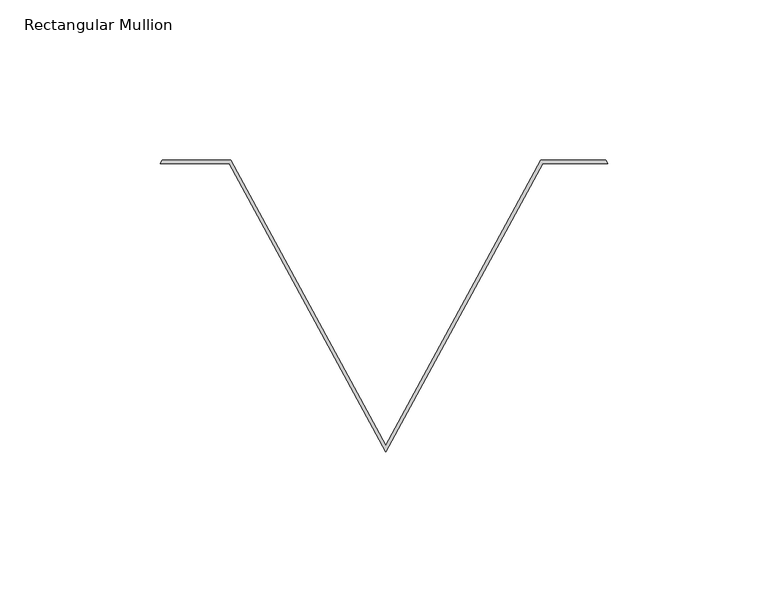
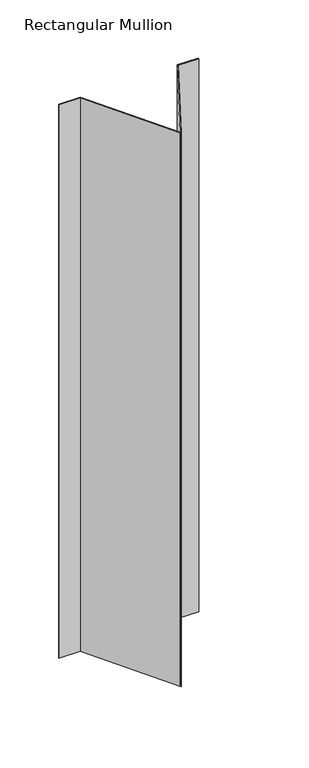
"""IFC4 building model written with IfcOpenShell, lengths in millimetres: member geometry, Rectangular Mullion : CD_NINELINE_Pleat End."""

import ifcopenshell
import ifcopenshell.guid

model = None  # the IFC model being written
_history = None  # IfcOwnerHistory: only IFC2X3 demands one
_inside = {}  # id of a spatial element -> (the spatial element, [elements in it])
_under = {}  # id of a project, library or spatial element -> (it, [spatial elements below it])
_declared = {}  # id of a project -> (the project, [libraries it declares])
_typed = {}  # id of a type object -> (the type object, [elements of that type])
_made_of = {}  # id of a material, layer set ... -> (it, [elements and type objects made of it])


def new_model(schema):
    """Start an empty IFC model of exactly this schema.

    Asked for "IFC4X3", IfcOpenShell would pick the latest addendum, in which some entities
    have other attributes; the version numbers below select the first issue.
    IFC2X3 requires an IfcOwnerHistory on every rooted entity: one is made here for all.
    """
    global model, _history
    if schema == "IFC4X3":
        model = ifcopenshell.file(schema_version=(4, 3, 0, 0))
    else:
        model = ifcopenshell.file(schema=schema)
    _inside.clear()
    _under.clear()
    _declared.clear()
    _typed.clear()
    _made_of.clear()
    _history = None
    if model.schema == "IFC2X3":
        org = make("IfcOrganization", Name="unknown")
        user = make(
            "IfcPersonAndOrganization",
            ThePerson=make("IfcPerson", FamilyName="unknown"),
            TheOrganization=org,
        )
        app = make(
            "IfcApplication",
            ApplicationDeveloper=org,
            Version="unknown",
            ApplicationFullName="unknown",
            ApplicationIdentifier="unknown",
        )
        _history = make(
            "IfcOwnerHistory",
            OwningUser=user,
            OwningApplication=app,
            ChangeAction="ADDED",
            CreationDate=0,
        )
    return model


def make(cls, **values):
    """One entity of the class cls with the attributes given. An attribute that is None is left unset."""
    return model.create_entity(
        cls, **{name: value for name, value in values.items() if value is not None}
    )


def rooted(cls, **values):
    """An entity with a GlobalId (a new one), such as an element, a storey or a relation."""
    return make(cls, GlobalId=ifcopenshell.guid.new(), OwnerHistory=_history, **values)


def si_unit(unit_type, name, prefix=None):
    """IfcSIUnit, for example si_unit("LENGTHUNIT", "METRE", prefix="MILLI")."""
    return make("IfcSIUnit", UnitType=unit_type, Prefix=prefix, Name=name)


def assignment(units):
    """IfcUnitAssignment: the units of a project."""
    return None if units is None else make("IfcUnitAssignment", Units=units)


def point(xyz):
    """IfcCartesianPoint."""
    return None if xyz is None else make("IfcCartesianPoint", Coordinates=xyz)


def direction(xyz):
    """IfcDirection."""
    return None if xyz is None else make("IfcDirection", DirectionRatios=xyz)


def frame(location, z_axis=None, x_axis=None):
    """IfcAxis2Placement3D, a coordinate frame: its origin and axes. An axis left out is left unset."""
    return make(
        "IfcAxis2Placement3D",
        Location=point(location),
        Axis=direction(z_axis),
        RefDirection=direction(x_axis),
    )


def origin():
    """The frame at (0, 0, 0) with its axes left unset."""
    return frame((0.0, 0.0, 0.0))


def place(relative_to, where):
    """IfcLocalPlacement: puts the frame where relative to a parent placement (None: the world)."""
    return make(
        "IfcLocalPlacement", PlacementRelTo=relative_to, RelativePlacement=where
    )


def context(
    kind, dimensions, precision=None, world=None, true_north=None, identifier=None
):
    """IfcGeometricRepresentationContext, for example the 3D "Model" context."""
    return make(
        "IfcGeometricRepresentationContext",
        ContextIdentifier=identifier,
        ContextType=kind,
        CoordinateSpaceDimension=dimensions,
        Precision=precision,
        WorldCoordinateSystem=world,
        TrueNorth=true_north,
    )


def project(units=None, contexts=None):
    """IfcProject with its units and contexts."""
    return rooted(
        "IfcProject",
        Name="project",
        RepresentationContexts=contexts,
        UnitsInContext=assignment(units),
    )


def spatial(cls, under=None, at=None, **own):
    """A site, building, storey or space (cls), placed at a placement, below another one or the project."""
    s = rooted(cls, ObjectPlacement=at, **own)
    if under is not None:
        _under.setdefault(under.id(), (under, []))[1].append(s)
    return s


def polyline(points):
    """IfcPolyline through the points."""
    return make("IfcPolyline", Points=[point(p) for p in points])


def outline(outer, holes=None, kind="AREA"):
    """IfcArbitraryClosedProfileDef: a profile drawn as a closed curve; with holes, ...WithVoids."""
    if holes is None:
        return make("IfcArbitraryClosedProfileDef", ProfileType=kind, OuterCurve=outer)
    return make(
        "IfcArbitraryProfileDefWithVoids",
        ProfileType=kind,
        OuterCurve=outer,
        InnerCurves=holes,
    )


def extrude(swept, where, along, depth):
    """IfcExtrudedAreaSolid: the profile swept, set in the frame where, extruded along a direction by depth."""
    return make(
        "IfcExtrudedAreaSolid",
        SweptArea=swept,
        Position=where,
        ExtrudedDirection=direction(along),
        Depth=depth,
    )


def shape(context_of_items, identifier, shape_type, items):
    """IfcShapeRepresentation: the items that make up one representation, for example the "Body"."""
    return make(
        "IfcShapeRepresentation",
        ContextOfItems=context_of_items,
        RepresentationIdentifier=identifier,
        RepresentationType=shape_type,
        Items=items,
    )


def source(mapping_origin, context_of_items, identifier, shape_type, items):
    """IfcRepresentationMap: a shape defined once, which mapped items show again and again."""
    return make(
        "IfcRepresentationMap",
        MappingOrigin=mapping_origin,
        MappedRepresentation=shape(context_of_items, identifier, shape_type, items),
    )


def transform(
    local_origin,
    x_axis=None,
    y_axis=None,
    z_axis=None,
    scale=None,
    scale2=None,
    scale3=None,
    uniform=True,
):
    """IfcCartesianTransformationOperator3D, or its non-uniform kind. x_axis, y_axis, z_axis: its Axis1, 2, 3."""
    if uniform:
        return make(
            "IfcCartesianTransformationOperator3D",
            Axis1=direction(x_axis),
            Axis2=direction(y_axis),
            LocalOrigin=point(local_origin),
            Scale=scale,
            Axis3=direction(z_axis),
        )
    return make(
        "IfcCartesianTransformationOperator3DnonUniform",
        Axis1=direction(x_axis),
        Axis2=direction(y_axis),
        LocalOrigin=point(local_origin),
        Scale=scale,
        Axis3=direction(z_axis),
        Scale2=scale2,
        Scale3=scale3,
    )


def mapped(mapping_source, mapping_target):
    """IfcMappedItem: shows the shape of a source again, moved by a transform."""
    return make(
        "IfcMappedItem", MappingSource=mapping_source, MappingTarget=mapping_target
    )


def made_of(thing, what):
    """Note that an element or type object is made of a material, layer set ...; save() writes the relation."""
    if what is not None:
        _made_of.setdefault(what.id(), (what, []))[1].append(thing)
    return thing


def element(
    cls,
    number,
    at=None,
    inside=None,
    cuts=None,
    type_object=None,
    material=None,
    context=None,
    identifier="Body",
    shape_type=None,
    held_by="IfcProductDefinitionShape",
    body=None,
    shapes=None,
    **own,
):
    """One element of the class cls, such as IfcWall. Its Tag is "e" and its number.

    at: its placement. inside: the storey or other place that contains it. cuts: it is an
    opening in that element (IfcRelVoidsElement). A single representation is given by context,
    identifier, shape_type and body (its items); several are given by shapes. held_by: the class
    of the entity that holds the representations. save() writes the other relations.
    """
    e = rooted(cls, Tag="e%d" % number, ObjectPlacement=at, **own)
    if body is not None:
        shapes = [shape(context, identifier, shape_type, body)]
    if shapes is not None:
        e.Representation = make(held_by, Representations=shapes)
    if inside is not None:
        _inside.setdefault(inside.id(), (inside, []))[1].append(e)
    if cuts is not None:
        rooted(
            "IfcRelVoidsElement", RelatingBuildingElement=cuts, RelatedOpeningElement=e
        )
    if type_object is not None:
        _typed.setdefault(type_object.id(), (type_object, []))[1].append(e)
    return made_of(e, material)


def aggregate(whole, parts):
    """IfcRelAggregates: a whole, such as a stair, and the parts it consists of."""
    return rooted("IfcRelAggregates", RelatingObject=whole, RelatedObjects=parts)


def save(model, path):
    """Write the relations noted so far, then the file.

    IfcRelAggregates (storeys below a building ...), IfcRelContainedInSpatialStructure (elements
    in a storey), IfcRelDefinesByType, IfcRelAssociatesMaterial and IfcRelDeclares: one each for
    every whole, place, type object, material and project.
    """
    for whole, parts in _under.values():
        aggregate(whole, parts)
    for where, things in _inside.values():
        rooted(
            "IfcRelContainedInSpatialStructure",
            RelatedElements=things,
            RelatingStructure=where,
        )
    for kind, things in _typed.values():
        rooted("IfcRelDefinesByType", RelatedObjects=things, RelatingType=kind)
    for what, things in _made_of.values():
        rooted("IfcRelAssociatesMaterial", RelatedObjects=things, RelatingMaterial=what)
    for by, libraries in _declared.values():
        rooted("IfcRelDeclares", RelatingContext=by, RelatedDefinitions=libraries)
    model.write(path)


def rectangular_mullion_6cd9f263(model_context):
    return source(origin(), model_context, "Body", "SweptSolid", [
        extrude(outline(polyline([(-138.8729579, 0.0), (-117.4072161, 0.0), (-69.1383234, -88.9018164), (-20.8694306, 0.0), (-0.5429557, 0.0), (0.0, -1.0), (-20.272258, -1.0), (-69.1382709, -91.0), (-118.0042839, -1.0), (-139.415904, -1.0), (-138.8729579, 0.0)])), frame((0.0, 0.0, -582.0625), z_axis=(0.0, 0.0, 1.0), x_axis=(1.0, 0.0, 0.0)), (0.0, 0.0, 1.0), 582.0625),
    ])


if __name__ == "__main__":
    model = new_model("IFC4")
    model_context = context("Model", 3, world=origin())
    ifc_project = project(units=[si_unit("LENGTHUNIT", "METRE", prefix="MILLI")], contexts=[model_context])
    site = spatial("IfcSite", under=ifc_project)
    building = spatial("IfcBuilding", under=site)
    placement = place(None, origin())
    rectangular_mullion_shape = rectangular_mullion_6cd9f263(model_context)
    element("IfcMember", 1, ObjectType="Rectangular Mullion : CD_NINELINE_Pleat End", at=placement, inside=building, context=model_context, shape_type="MappedRepresentation", body=[
        mapped(rectangular_mullion_shape, transform((0.0, 0.0, 0.0), x_axis=(1.0, 0.0, 0.0), y_axis=(0.0, 1.0, 0.0), z_axis=(0.0, 0.0, 1.0))),
    ])
    save(model, "model.ifc")
